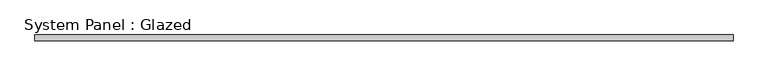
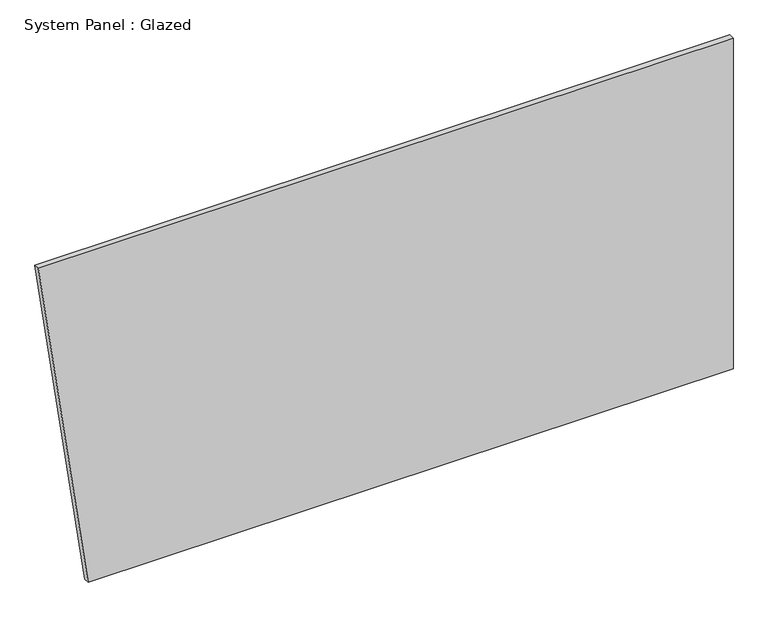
"""IFC4 building model written with IfcOpenShell, lengths in millimetres: plate geometry, System Panel : Glazed."""

from ifc_helpers import new_model, si_unit, frame, origin, place, context, project, spatial, polyline, outline, extrude, source, transform, mapped, element, save


def system_panel_glazed_2e2ccb96(model_context):
    return source(origin(), model_context, "Body", "SweptSolid", [
        extrude(outline(polyline([(0.0, -1297.5896165), (0.0, 1514.6349716), (1524.0, 1514.6349716), (1524.0, -1514.6349716), (0.0, -1297.5896165)])), frame((0.0, 19.05, 0.0), z_axis=(0.0, 1.0, 0.0), x_axis=(0.0, 0.0, 1.0)), (0.0, 0.0, 1.0), 25.4),
    ])


if __name__ == "__main__":
    model = new_model("IFC4")
    model_context = context("Model", 3, world=origin())
    ifc_project = project(units=[si_unit("LENGTHUNIT", "METRE", prefix="MILLI")], contexts=[model_context])
    site = spatial("IfcSite", under=ifc_project)
    building = spatial("IfcBuilding", under=site)
    placement = place(None, origin())
    system_panel_glazed_shape = system_panel_glazed_2e2ccb96(model_context)
    element("IfcPlate", 1, ObjectType="System Panel : Glazed", at=placement, inside=building, context=model_context, shape_type="MappedRepresentation", body=[
        mapped(system_panel_glazed_shape, transform((0.0, 0.0, 0.0), x_axis=(1.0, 0.0, 0.0), y_axis=(0.0, 1.0, 0.0), z_axis=(0.0, 0.0, 1.0))),
    ])
    save(model, "model.ifc")
